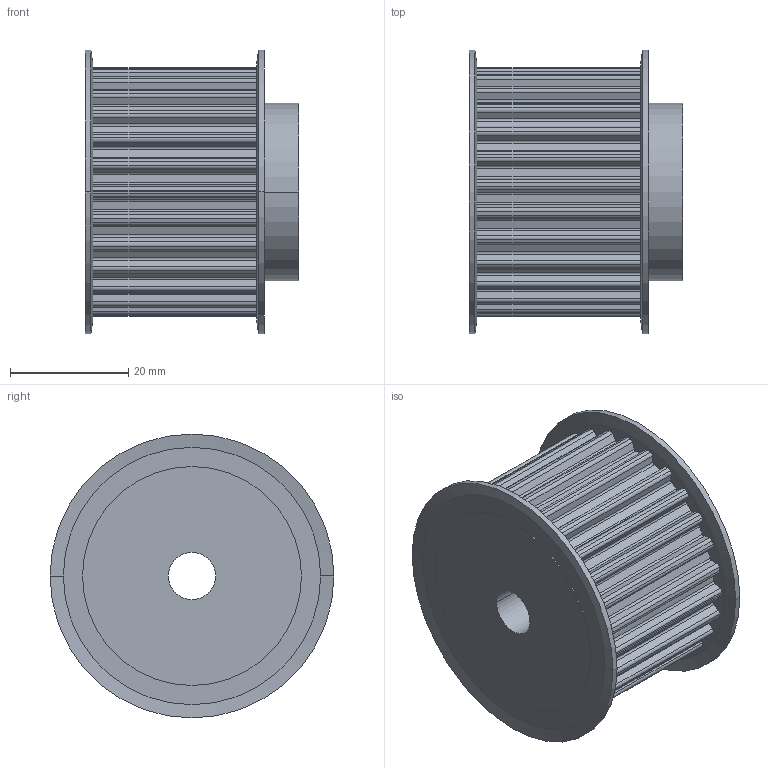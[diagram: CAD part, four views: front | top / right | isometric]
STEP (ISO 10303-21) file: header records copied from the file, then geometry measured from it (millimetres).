
FILE_DESCRIPTION( ( '' ), '1' );
FILE_NAME( 'C:/Users/Stangenbergd/Documents/CAD_Step/1/16242700.stp', '2021-10-19T08:46:00', ( '' ), ( '' ), ' ', ' ', ' ' );
FILE_SCHEMA( ( 'CONFIG_CONTROL_DESIGN' ) );
Length unit declared in the file: millimetre
Products named in the file (1): 1
Bounding box: 36.17 x 48 x 48 mm (x, y, z)
Volume: 41126.6 mm3; surface area: 11774.4 mm2
Topology: 1 solids, 1 shells, 244 faces, 703 edges, 466 vertices
Faces by surface type: cylinder 148, plane 88, cone 8
Entity records: 8175 total; most frequent: DIRECTION 1497, CARTESIAN_POINT 1414, ORIENTED_EDGE 1406, EDGE_CURVE 703, AXIS2_PLACEMENT_3D 549, VERTEX_POINT 466, LINE 399, VECTOR 399
